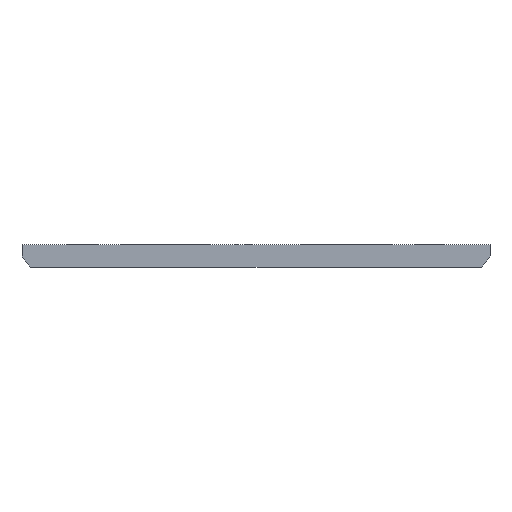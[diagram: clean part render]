
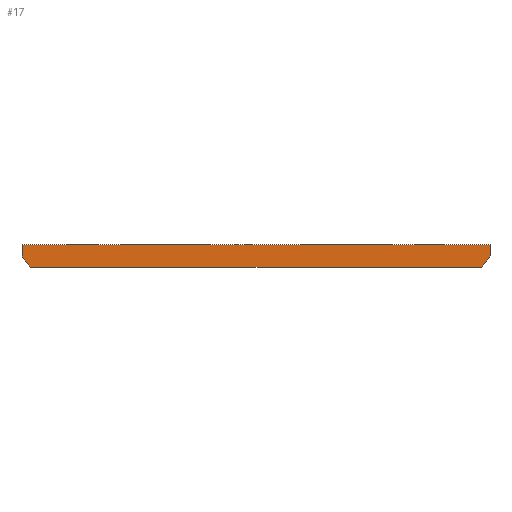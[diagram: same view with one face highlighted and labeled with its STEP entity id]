
A CAD part, left-side view. The second image highlights one B-rep face of the part: STEP entity #17.
In plain terms, the highlighted planar face has unit normal (-1, 0, 0).
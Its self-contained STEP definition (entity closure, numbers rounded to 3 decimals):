
#17 = ADVANCED_FACE('',(#18),#32,.F.);
#18 = FACE_BOUND('',#19,.F.);
#19 = EDGE_LOOP('',(#20,#55,#84,#112,#141,#169));
#20 = ORIENTED_EDGE('',*,*,#21,.F.);
#21 = EDGE_CURVE('',#22,#24,#26,.T.);
#22 = VERTEX_POINT('',#23);
#23 = CARTESIAN_POINT('',(38.,-15.5,-11.246));
#24 = VERTEX_POINT('',#25);
#25 = CARTESIAN_POINT('',(38.,-15.5,-10.5));
#26 = SURFACE_CURVE('',#27,(#31,#43),.PCURVE_S1.);
#27 = LINE('',#28,#29);
#28 = CARTESIAN_POINT('',(38.,-15.5,-12.));
#29 = VECTOR('',#30,1.);
#30 = DIRECTION('',(0.,0.,1.));
#31 = PCURVE('',#32,#37);
#32 = PLANE('',#33);
#33 = AXIS2_PLACEMENT_3D('',#34,#35,#36);
#34 = CARTESIAN_POINT('',(38.,-15.5,-12.));
#35 = DIRECTION('',(1.,0.,-0.));
#36 = DIRECTION('',(0.,0.,1.));
#37 = DEFINITIONAL_REPRESENTATION('',(#38),#42);
#38 = LINE('',#39,#40);
#39 = CARTESIAN_POINT('',(0.,0.));
#40 = VECTOR('',#41,1.);
#41 = DIRECTION('',(1.,0.));
#42 = ( GEOMETRIC_REPRESENTATION_CONTEXT(2) 
PARAMETRIC_REPRESENTATION_CONTEXT() REPRESENTATION_CONTEXT('2D SPACE',''
  ) );
#43 = PCURVE('',#44,#49);
#44 = PLANE('',#45);
#45 = AXIS2_PLACEMENT_3D('',#46,#47,#48);
#46 = CARTESIAN_POINT('',(38.,-15.5,-12.));
#47 = DIRECTION('',(-0.,1.,0.));
#48 = DIRECTION('',(0.,0.,1.));
#49 = DEFINITIONAL_REPRESENTATION('',(#50),#54);
#50 = LINE('',#51,#52);
#51 = CARTESIAN_POINT('',(0.,0.));
#52 = VECTOR('',#53,1.);
#53 = DIRECTION('',(1.,0.));
#54 = ( GEOMETRIC_REPRESENTATION_CONTEXT(2) 
PARAMETRIC_REPRESENTATION_CONTEXT() REPRESENTATION_CONTEXT('2D SPACE',''
  ) );
#55 = ORIENTED_EDGE('',*,*,#56,.T.);
#56 = EDGE_CURVE('',#22,#57,#59,.T.);
#57 = VERTEX_POINT('',#58);
#58 = CARTESIAN_POINT('',(38.,-14.924,-12.));
#59 = SURFACE_CURVE('',#60,(#65,#72),.PCURVE_S1.);
#60 = CIRCLE('',#61,19.15);
#61 = AXIS2_PLACEMENT_3D('',#62,#63,#64);
#62 = CARTESIAN_POINT('',(38.,0.,0.));
#63 = DIRECTION('',(1.,0.,0.));
#64 = DIRECTION('',(-0.,0.,1.));
#65 = PCURVE('',#32,#66);
#66 = DEFINITIONAL_REPRESENTATION('',(#67),#71);
#67 = CIRCLE('',#68,19.15);
#68 = AXIS2_PLACEMENT_2D('',#69,#70);
#69 = CARTESIAN_POINT('',(12.,-15.5));
#70 = DIRECTION('',(1.,0.));
#71 = ( GEOMETRIC_REPRESENTATION_CONTEXT(2) 
PARAMETRIC_REPRESENTATION_CONTEXT() REPRESENTATION_CONTEXT('2D SPACE',''
  ) );
#72 = PCURVE('',#73,#78);
#73 = CYLINDRICAL_SURFACE('',#74,19.15);
#74 = AXIS2_PLACEMENT_3D('',#75,#76,#77);
#75 = CARTESIAN_POINT('',(37.,0.,0.));
#76 = DIRECTION('',(1.,0.,0.));
#77 = DIRECTION('',(-0.,0.,1.));
#78 = DEFINITIONAL_REPRESENTATION('',(#79),#83);
#79 = LINE('',#80,#81);
#80 = CARTESIAN_POINT('',(0.,1.));
#81 = VECTOR('',#82,1.);
#82 = DIRECTION('',(1.,0.));
#83 = ( GEOMETRIC_REPRESENTATION_CONTEXT(2) 
PARAMETRIC_REPRESENTATION_CONTEXT() REPRESENTATION_CONTEXT('2D SPACE',''
  ) );
#84 = ORIENTED_EDGE('',*,*,#85,.T.);
#85 = EDGE_CURVE('',#57,#86,#88,.T.);
#86 = VERTEX_POINT('',#87);
#87 = CARTESIAN_POINT('',(38.,14.924,-12.));
#88 = SURFACE_CURVE('',#89,(#93,#100),.PCURVE_S1.);
#89 = LINE('',#90,#91);
#90 = CARTESIAN_POINT('',(38.,-15.5,-12.));
#91 = VECTOR('',#92,1.);
#92 = DIRECTION('',(-0.,1.,0.));
#93 = PCURVE('',#32,#94);
#94 = DEFINITIONAL_REPRESENTATION('',(#95),#99);
#95 = LINE('',#96,#97);
#96 = CARTESIAN_POINT('',(0.,0.));
#97 = VECTOR('',#98,1.);
#98 = DIRECTION('',(0.,-1.));
#99 = ( GEOMETRIC_REPRESENTATION_CONTEXT(2) 
PARAMETRIC_REPRESENTATION_CONTEXT() REPRESENTATION_CONTEXT('2D SPACE',''
  ) );
#100 = PCURVE('',#101,#106);
#101 = PLANE('',#102);
#102 = AXIS2_PLACEMENT_3D('',#103,#104,#105);
#103 = CARTESIAN_POINT('',(38.,-15.5,-12.));
#104 = DIRECTION('',(0.,0.,1.));
#105 = DIRECTION('',(1.,0.,-0.));
#106 = DEFINITIONAL_REPRESENTATION('',(#107),#111);
#107 = LINE('',#108,#109);
#108 = CARTESIAN_POINT('',(0.,0.));
#109 = VECTOR('',#110,1.);
#110 = DIRECTION('',(0.,1.));
#111 = ( GEOMETRIC_REPRESENTATION_CONTEXT(2) 
PARAMETRIC_REPRESENTATION_CONTEXT() REPRESENTATION_CONTEXT('2D SPACE',''
  ) );
#112 = ORIENTED_EDGE('',*,*,#113,.T.);
#113 = EDGE_CURVE('',#86,#114,#116,.T.);
#114 = VERTEX_POINT('',#115);
#115 = CARTESIAN_POINT('',(38.,15.5,-11.246));
#116 = SURFACE_CURVE('',#117,(#122,#129),.PCURVE_S1.);
#117 = CIRCLE('',#118,19.15);
#118 = AXIS2_PLACEMENT_3D('',#119,#120,#121);
#119 = CARTESIAN_POINT('',(38.,0.,0.));
#120 = DIRECTION('',(1.,0.,0.));
#121 = DIRECTION('',(-0.,0.,1.));
#122 = PCURVE('',#32,#123);
#123 = DEFINITIONAL_REPRESENTATION('',(#124),#128);
#124 = CIRCLE('',#125,19.15);
#125 = AXIS2_PLACEMENT_2D('',#126,#127);
#126 = CARTESIAN_POINT('',(12.,-15.5));
#127 = DIRECTION('',(1.,0.));
#128 = ( GEOMETRIC_REPRESENTATION_CONTEXT(2) 
PARAMETRIC_REPRESENTATION_CONTEXT() REPRESENTATION_CONTEXT('2D SPACE',''
  ) );
#129 = PCURVE('',#130,#135);
#130 = CYLINDRICAL_SURFACE('',#131,19.15);
#131 = AXIS2_PLACEMENT_3D('',#132,#133,#134);
#132 = CARTESIAN_POINT('',(37.,0.,0.));
#133 = DIRECTION('',(1.,0.,0.));
#134 = DIRECTION('',(-0.,0.,1.));
#135 = DEFINITIONAL_REPRESENTATION('',(#136),#140);
#136 = LINE('',#137,#138);
#137 = CARTESIAN_POINT('',(0.,1.));
#138 = VECTOR('',#139,1.);
#139 = DIRECTION('',(1.,0.));
#140 = ( GEOMETRIC_REPRESENTATION_CONTEXT(2) 
PARAMETRIC_REPRESENTATION_CONTEXT() REPRESENTATION_CONTEXT('2D SPACE',''
  ) );
#141 = ORIENTED_EDGE('',*,*,#142,.T.);
#142 = EDGE_CURVE('',#114,#143,#145,.T.);
#143 = VERTEX_POINT('',#144);
#144 = CARTESIAN_POINT('',(38.,15.5,-10.5));
#145 = SURFACE_CURVE('',#146,(#150,#157),.PCURVE_S1.);
#146 = LINE('',#147,#148);
#147 = CARTESIAN_POINT('',(38.,15.5,-12.));
#148 = VECTOR('',#149,1.);
#149 = DIRECTION('',(0.,0.,1.));
#150 = PCURVE('',#32,#151);
#151 = DEFINITIONAL_REPRESENTATION('',(#152),#156);
#152 = LINE('',#153,#154);
#153 = CARTESIAN_POINT('',(0.,-31.));
#154 = VECTOR('',#155,1.);
#155 = DIRECTION('',(1.,0.));
#156 = ( GEOMETRIC_REPRESENTATION_CONTEXT(2) 
PARAMETRIC_REPRESENTATION_CONTEXT() REPRESENTATION_CONTEXT('2D SPACE',''
  ) );
#157 = PCURVE('',#158,#163);
#158 = PLANE('',#159);
#159 = AXIS2_PLACEMENT_3D('',#160,#161,#162);
#160 = CARTESIAN_POINT('',(38.,15.5,-12.));
#161 = DIRECTION('',(-0.,1.,0.));
#162 = DIRECTION('',(0.,0.,1.));
#163 = DEFINITIONAL_REPRESENTATION('',(#164),#168);
#164 = LINE('',#165,#166);
#165 = CARTESIAN_POINT('',(0.,0.));
#166 = VECTOR('',#167,1.);
#167 = DIRECTION('',(1.,0.));
#168 = ( GEOMETRIC_REPRESENTATION_CONTEXT(2) 
PARAMETRIC_REPRESENTATION_CONTEXT() REPRESENTATION_CONTEXT('2D SPACE',''
  ) );
#169 = ORIENTED_EDGE('',*,*,#170,.F.);
#170 = EDGE_CURVE('',#24,#143,#171,.T.);
#171 = SURFACE_CURVE('',#172,(#176,#183),.PCURVE_S1.);
#172 = LINE('',#173,#174);
#173 = CARTESIAN_POINT('',(38.,-15.5,-10.5));
#174 = VECTOR('',#175,1.);
#175 = DIRECTION('',(-0.,1.,0.));
#176 = PCURVE('',#32,#177);
#177 = DEFINITIONAL_REPRESENTATION('',(#178),#182);
#178 = LINE('',#179,#180);
#179 = CARTESIAN_POINT('',(1.5,0.));
#180 = VECTOR('',#181,1.);
#181 = DIRECTION('',(0.,-1.));
#182 = ( GEOMETRIC_REPRESENTATION_CONTEXT(2) 
PARAMETRIC_REPRESENTATION_CONTEXT() REPRESENTATION_CONTEXT('2D SPACE',''
  ) );
#183 = PCURVE('',#184,#189);
#184 = PLANE('',#185);
#185 = AXIS2_PLACEMENT_3D('',#186,#187,#188);
#186 = CARTESIAN_POINT('',(38.,-15.5,-10.5));
#187 = DIRECTION('',(0.,0.,1.));
#188 = DIRECTION('',(1.,0.,-0.));
#189 = DEFINITIONAL_REPRESENTATION('',(#190),#194);
#190 = LINE('',#191,#192);
#191 = CARTESIAN_POINT('',(0.,0.));
#192 = VECTOR('',#193,1.);
#193 = DIRECTION('',(0.,1.));
#194 = ( GEOMETRIC_REPRESENTATION_CONTEXT(2) 
PARAMETRIC_REPRESENTATION_CONTEXT() REPRESENTATION_CONTEXT('2D SPACE',''
  ) );
